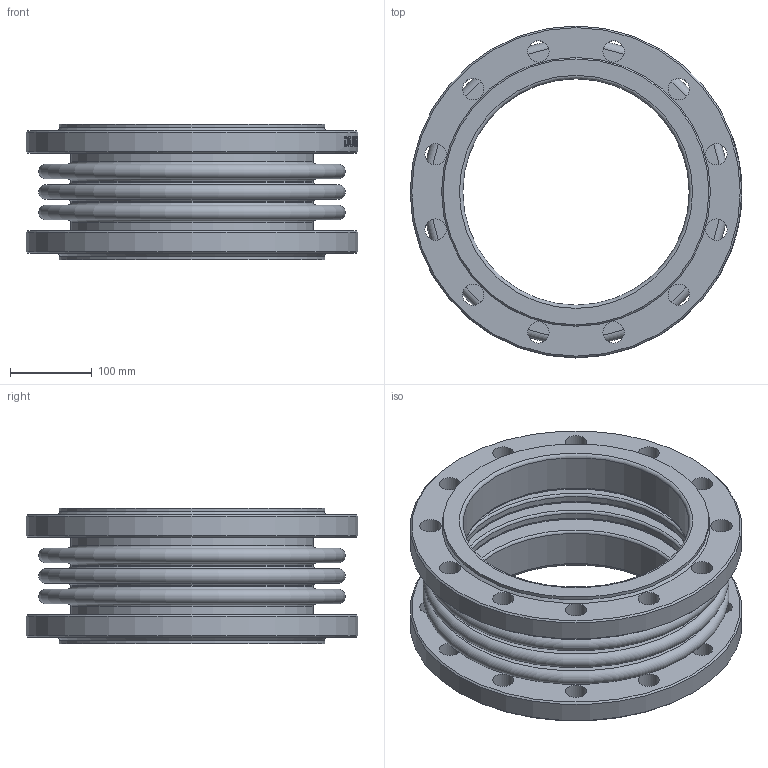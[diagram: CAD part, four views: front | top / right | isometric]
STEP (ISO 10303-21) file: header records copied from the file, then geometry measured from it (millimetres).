
FILE_DESCRIPTION(/* description */ ('D140-02145','CAx-IF Rec.Pracs.---Representation and Presentation of Product Manufacturing Information (PMI)---4.0---2014-10-13'),/* implementation_level */ '2;1');
FILE_NAME(/* name */ '',/* time_stamp */ '2026-04-16T22:35:39+03:00',/* author */ ('DN.RU'),/* organization */ ('DN.RU'),/* preprocessor_version */ 'ST-DEVELOPER v20',/* originating_system */ 'Autodesk Inventor 2025',/* authorisation */ '');
FILE_SCHEMA (('AP242_MANAGED_MODEL_BASED_3D_ENGINEERING_MIM_LF { 1 0 10303 442 1 1 4 }'));
Length unit declared in the file: millimetre
Products named in the file (1): CB-3232P-F
Bounding box: 405 x 405 x 166 mm (x, y, z)
Volume: 4826851.1 mm3; surface area: 1136055.1 mm2
Topology: 1 solids, 1 shells, 297 faces, 765 edges, 510 vertices
Faces by surface type: plane 118, bspline 95, cylinder 58, torus 20, cone 6
Full cylindrical faces by diameter (mm): 26 x24, 276.5 x2, 290.5 x2, 296.5 x4, 306.5 x2, 324.5 x2, 405 x2
Entity records: 12707 total; most frequent: CARTESIAN_POINT 5041, ORIENTED_EDGE 1530, DIRECTION 1317, EDGE_CURVE 765, VERTEX_POINT 510, AXIS2_PLACEMENT_3D 500, EDGE_LOOP 387, STYLED_ITEM 379
